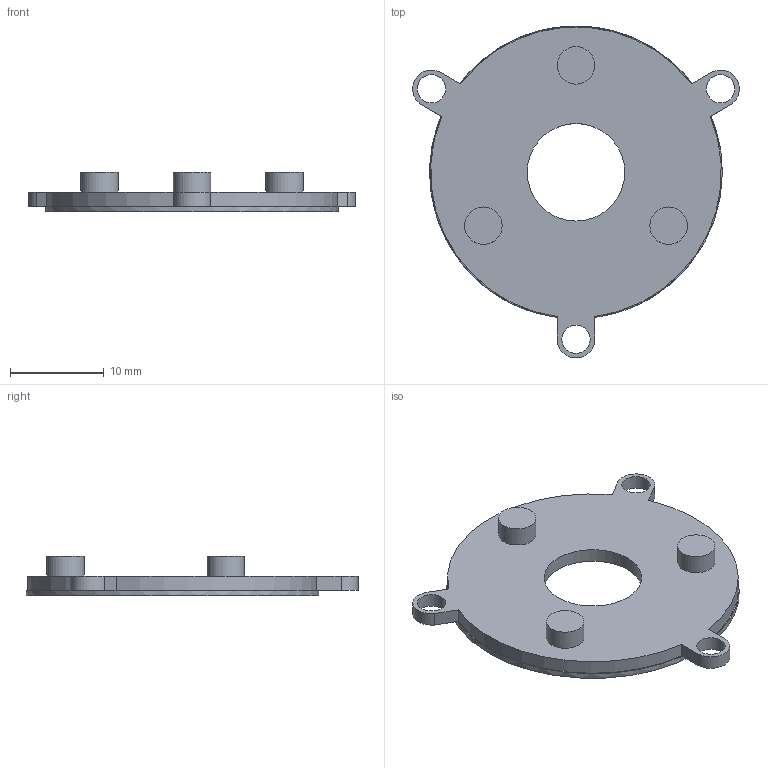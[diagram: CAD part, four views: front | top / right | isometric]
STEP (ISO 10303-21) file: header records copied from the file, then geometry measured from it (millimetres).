
FILE_DESCRIPTION(('Open CASCADE Model'),'2;1');
FILE_NAME('Open CASCADE Shape Model','2026-09-24T19:52:59',('Author'),( 'Open CASCADE'),'Open CASCADE STEP processor 7.8','Open CASCADE 7.8' ,'Unknown');
FILE_SCHEMA(('AUTOMOTIVE_DESIGN { 1 0 10303 214 1 1 1 1 }'));
Length unit declared in the file: millimetre
Products named in the file (1): Open CASCADE STEP translator 7.8 50
Bounding box: 34.82 x 35.39 x 4.2 mm (x, y, z)
Volume: 1204.6 mm3; surface area: 1873.3 mm2
Topology: 1 solids, 1 shells, 50 faces, 126 edges, 82 vertices
Faces by surface type: plane 33, cylinder 17
Full cylindrical faces by diameter (mm): 3.02 x3, 4 x3, 10.4 x1, 31.2 x1
Entity records: 3130 total; most frequent: CARTESIAN_POINT 610, DIRECTION 456, ORIENTED_EDGE 252, PCURVE 252, DEFINITIONAL_REPRESENTATION 252, LINE 241, VECTOR 241, EDGE_CURVE 126
